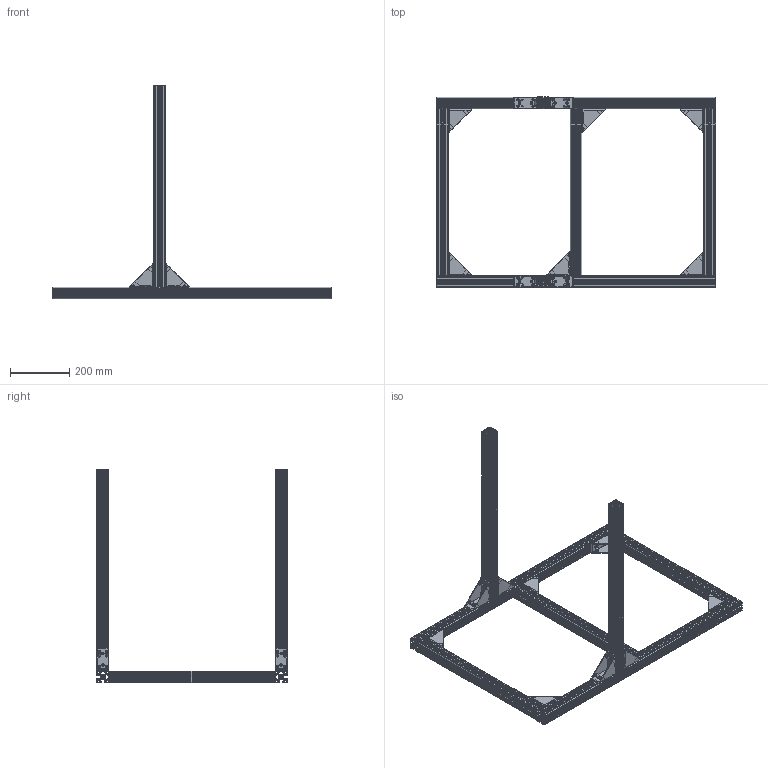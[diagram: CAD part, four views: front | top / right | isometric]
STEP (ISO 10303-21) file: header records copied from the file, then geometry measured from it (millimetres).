
FILE_DESCRIPTION((' '),'2;1');
FILE_NAME('E:\work\priv\cnc\hard\mechanic\frame\frame.stp','2012-08-01T15:55:27',(' '),(' '),' ','ACIS',' ');
FILE_SCHEMA(('CONFIG_CONTROL_DESIGN'));
Length unit declared in the file: millimetre
Products named in the file (31): E:\work\priv\cnc\hard\mechanic\frame\frame.stp; Component2; angle8_80 Copy1; Component2 Copy3; angle8_80 Copy2; Component2 Copy5; angle8_80 Copy3; Component2 Copy8; angle8_80 Copy4; Component2 Copy9; angle8_80 Copy5; Component2 Copy10; angle8_80 Copy6; Component2 Copy11; item8_40_680mm Copy1; Component2 Copy12; item8_40_680mm Copy2; Component2 Copy13; angle8_80 Copy7; Component2 Copy14; angle8_80 Copy8; Component2 Copy15; angle8_80 Copy9; Component2 Copy16; angle8_80 Copy10; Component2 Copy17; item8_40_560mm Copy1; item8_40_940mm Copy1; item8_40_560mm Copy2; item8_40_940mm Copy2; item8_40_560mm Copy3
Assembly tree (30 placements, depth 3):
  E:\work\priv\cnc\hard\mechanic\frame\frame.stp
    Component2
    angle8_80 Copy1
      Component2 Copy3
    angle8_80 Copy2
      Component2 Copy5
    angle8_80 Copy3
      Component2 Copy8
    angle8_80 Copy4
      Component2 Copy9
    angle8_80 Copy5
      Component2 Copy10
    angle8_80 Copy6
      Component2 Copy11
    item8_40_680mm Copy1
      Component2 Copy12
    item8_40_680mm Copy2
      Component2 Copy13
    angle8_80 Copy7
      Component2 Copy14
    angle8_80 Copy8
      Component2 Copy15
    angle8_80 Copy9
      Component2 Copy16
    angle8_80 Copy10
      Component2 Copy17
    item8_40_560mm Copy1
    item8_40_940mm Copy1
    item8_40_560mm Copy2
    item8_40_940mm Copy2
    item8_40_560mm Copy3
Bounding box: 940 x 640 x 720 mm (x, y, z)
Volume: 2935796.7 mm3; surface area: 3119775.7 mm2
Topology: 17 solids, 17 shells, 2155 faces, 6213 edges, 4142 vertices
Faces by surface type: cylinder 1187, plane 968
Full cylindrical faces by diameter (mm): 6.8 x47, 8.2 x40
Entity records: 76301 total; most frequent: CARTESIAN_POINT 13144, DIRECTION 12812, ORIENTED_EDGE 12252, EDGE_CURVE 6126, AXIS2_PLACEMENT_3D 4550, VERTEX_POINT 4142, VECTOR 3712, LINE 3712
